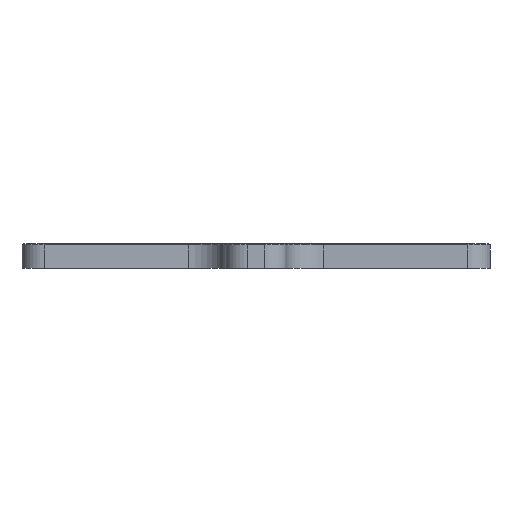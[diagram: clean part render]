
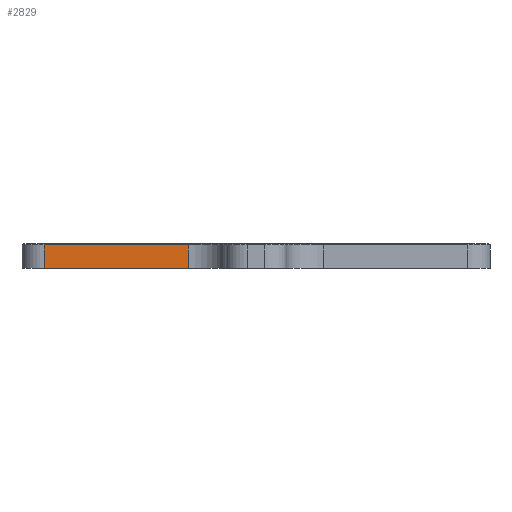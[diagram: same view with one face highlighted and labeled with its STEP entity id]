
A CAD part, left-side view. The second image highlights one B-rep face of the part: STEP entity #2829.
In plain terms, the highlighted planar face has unit normal (-1, 0, 0).
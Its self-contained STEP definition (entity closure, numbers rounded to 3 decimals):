
#157 = ORIENTED_EDGE ( 'NONE', *, *, #4751, .T. ) ;
#400 = EDGE_LOOP ( 'NONE', ( #1162, #4422, #5018, #157 ) ) ;
#401 = VERTEX_POINT ( 'NONE', #464 ) ;
#464 = CARTESIAN_POINT ( 'NONE',  ( -12.5, 86., 0. ) ) ;
#672 = VECTOR ( 'NONE', #6497, 1000. ) ;
#677 = VECTOR ( 'NONE', #2208, 1000. ) ;
#889 = LINE ( 'NONE', #2261, #677 ) ;
#1121 = EDGE_CURVE ( 'NONE', #1608, #401, #4697, .T. ) ;
#1162 = ORIENTED_EDGE ( 'NONE', *, *, #2093, .F. ) ;
#1430 = VERTEX_POINT ( 'NONE', #4532 ) ;
#1450 = AXIS2_PLACEMENT_3D ( 'NONE', #2582, #2547, #2450 ) ;
#1522 = DIRECTION ( 'NONE',  ( 0., 0., -1. ) ) ;
#1572 = CARTESIAN_POINT ( 'NONE',  ( -12.5, 86., 10. ) ) ;
#1608 = VERTEX_POINT ( 'NONE', #4967 ) ;
#1769 = FACE_OUTER_BOUND ( 'NONE', #400, .T. ) ;
#1948 = VECTOR ( 'NONE', #5865, 1000. ) ;
#2093 = EDGE_CURVE ( 'NONE', #5154, #1430, #3598, .T. ) ;
#2208 = DIRECTION ( 'NONE',  ( 0., 1., 0. ) ) ;
#2261 = CARTESIAN_POINT ( 'NONE',  ( -12.5, 86., 9.5 ) ) ;
#2450 = DIRECTION ( 'NONE',  ( 0., 0., -1. ) ) ;
#2547 = DIRECTION ( 'NONE',  ( 1., 0., 0. ) ) ;
#2582 = CARTESIAN_POINT ( 'NONE',  ( -12.5, 86., 10. ) ) ;
#2829 = ADVANCED_FACE ( 'NONE', ( #1769 ), #2895, .F. ) ;
#2895 = PLANE ( 'NONE',  #1450 ) ;
#3598 = LINE ( 'NONE', #6094, #1948 ) ;
#4393 = CARTESIAN_POINT ( 'NONE',  ( -12.5, 27.5, 9.5 ) ) ;
#4422 = ORIENTED_EDGE ( 'NONE', *, *, #6200, .T. ) ;
#4532 = CARTESIAN_POINT ( 'NONE',  ( -12.5, 27.5, 0. ) ) ;
#4697 = LINE ( 'NONE', #1572, #6315 ) ;
#4751 = EDGE_CURVE ( 'NONE', #401, #1430, #5599, .T. ) ;
#4967 = CARTESIAN_POINT ( 'NONE',  ( -12.5, 86., 9.5 ) ) ;
#5018 = ORIENTED_EDGE ( 'NONE', *, *, #1121, .T. ) ;
#5154 = VERTEX_POINT ( 'NONE', #4393 ) ;
#5599 = LINE ( 'NONE', #5901, #672 ) ;
#5865 = DIRECTION ( 'NONE',  ( 0., 0., -1. ) ) ;
#5901 = CARTESIAN_POINT ( 'NONE',  ( -12.5, 86., 0. ) ) ;
#6094 = CARTESIAN_POINT ( 'NONE',  ( -12.5, 27.5, 10. ) ) ;
#6200 = EDGE_CURVE ( 'NONE', #5154, #1608, #889, .T. ) ;
#6315 = VECTOR ( 'NONE', #1522, 1000. ) ;
#6497 = DIRECTION ( 'NONE',  ( 0., -1., 0. ) ) ;
